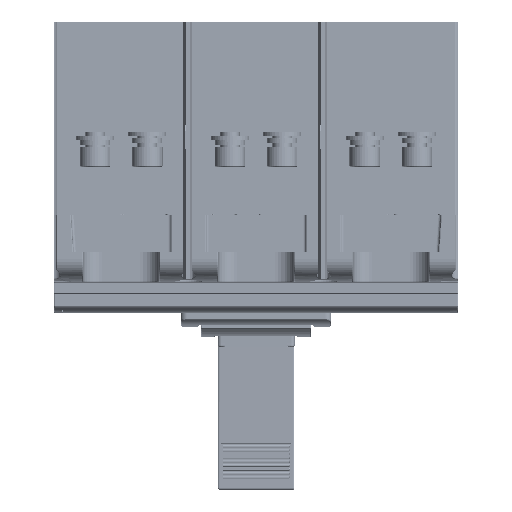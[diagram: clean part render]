
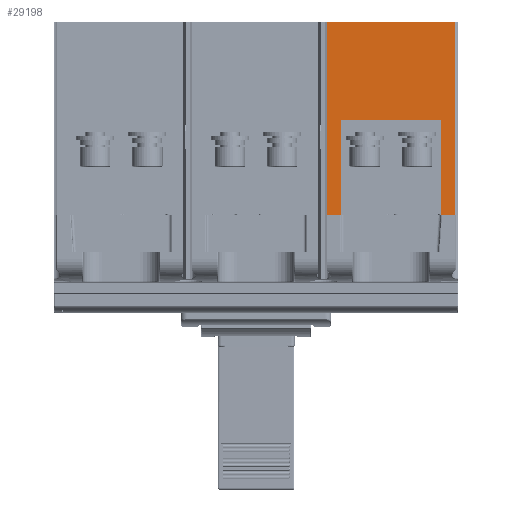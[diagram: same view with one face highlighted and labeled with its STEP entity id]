
A CAD part, left-side view. The second image highlights one B-rep face of the part: STEP entity #29198.
In plain terms, the highlighted planar face has unit normal (-1, 0, 0).
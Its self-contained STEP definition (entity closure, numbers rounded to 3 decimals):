
#577=DIRECTION('',(0.,1.,0.));
#578=VECTOR('',#577,67.1);
#579=CARTESIAN_POINT('',(-5.,1.5,100.));
#580=LINE('',#579,#578);
#3467=DIRECTION('',(0.,-1.,0.));
#3468=VECTOR('',#3467,7.6);
#3469=CARTESIAN_POINT('',(-5.,68.6,0.));
#3470=LINE('',#3469,#3468);
#3752=DIRECTION('',(0.,-1.,0.));
#3753=VECTOR('',#3752,7.5);
#3754=CARTESIAN_POINT('',(-5.,9.,0.));
#3755=LINE('',#3754,#3753);
#7505=DIRECTION('',(0.,0.,1.));
#7506=VECTOR('',#7505,49.);
#7507=CARTESIAN_POINT('',(-5.,61.,0.));
#7508=LINE('',#7507,#7506);
#7569=DIRECTION('',(0.,0.,1.));
#7570=VECTOR('',#7569,100.);
#7571=CARTESIAN_POINT('',(-5.,68.6,0.));
#7572=LINE('',#7571,#7570);
#7573=DIRECTION('',(0.,0.,-1.));
#7574=VECTOR('',#7573,100.);
#7575=CARTESIAN_POINT('',(-5.,1.5,100.));
#7576=LINE('',#7575,#7574);
#7577=DIRECTION('',(0.,0.,1.));
#7578=VECTOR('',#7577,49.);
#7579=CARTESIAN_POINT('',(-5.,9.,0.));
#7580=LINE('',#7579,#7578);
#7585=DIRECTION('',(0.,-1.,0.));
#7586=VECTOR('',#7585,52.);
#7587=CARTESIAN_POINT('',(-5.,61.,49.));
#7588=LINE('',#7587,#7586);
#15413=CARTESIAN_POINT('',(-5.,9.,0.));
#15414=VERTEX_POINT('',#15413);
#15415=CARTESIAN_POINT('',(-5.,1.5,0.));
#15416=VERTEX_POINT('',#15415);
#16305=CARTESIAN_POINT('',(-5.,1.5,100.));
#16306=VERTEX_POINT('',#16305);
#16307=CARTESIAN_POINT('',(-5.,68.6,100.));
#16308=VERTEX_POINT('',#16307);
#17576=CARTESIAN_POINT('',(-5.,9.,49.));
#17577=VERTEX_POINT('',#17576);
#17588=CARTESIAN_POINT('',(-5.,61.,49.));
#17589=VERTEX_POINT('',#17588);
#17590=CARTESIAN_POINT('',(-5.,61.,0.));
#17591=VERTEX_POINT('',#17590);
#17592=CARTESIAN_POINT('',(-5.,68.6,0.));
#17593=VERTEX_POINT('',#17592);
#29179=CARTESIAN_POINT('',(-5.,140.,0.));
#29180=DIRECTION('',(-1.,0.,0.));
#29181=DIRECTION('',(0.,0.,-1.));
#29182=AXIS2_PLACEMENT_3D('',#29179,#29180,#29181);
#29183=PLANE('',#29182);
#29185=ORIENTED_EDGE('',*,*,#29184,.F.);
#29186=ORIENTED_EDGE('',*,*,#29087,.F.);
#29187=ORIENTED_EDGE('',*,*,#24339,.F.);
#29189=ORIENTED_EDGE('',*,*,#29188,.T.);
#29190=ORIENTED_EDGE('',*,*,#20757,.F.);
#29192=ORIENTED_EDGE('',*,*,#29191,.T.);
#29193=ORIENTED_EDGE('',*,*,#24681,.F.);
#29195=ORIENTED_EDGE('',*,*,#29194,.T.);
#29196=EDGE_LOOP('',(#29185,#29186,#29187,#29189,#29190,#29192,#29193,#29195));
#29197=FACE_OUTER_BOUND('',#29196,.F.);
#29198=ADVANCED_FACE('',(#29197),#29183,.T.);
#20757=EDGE_CURVE('',#16306,#16308,#580,.T.);
#24339=EDGE_CURVE('',#17593,#17591,#3470,.T.);
#24681=EDGE_CURVE('',#15414,#15416,#3755,.T.);
#29087=EDGE_CURVE('',#17591,#17589,#7508,.T.);
#29184=EDGE_CURVE('',#17589,#17577,#7588,.T.);
#29188=EDGE_CURVE('',#17593,#16308,#7572,.T.);
#29191=EDGE_CURVE('',#16306,#15416,#7576,.T.);
#29194=EDGE_CURVE('',#15414,#17577,#7580,.T.);
